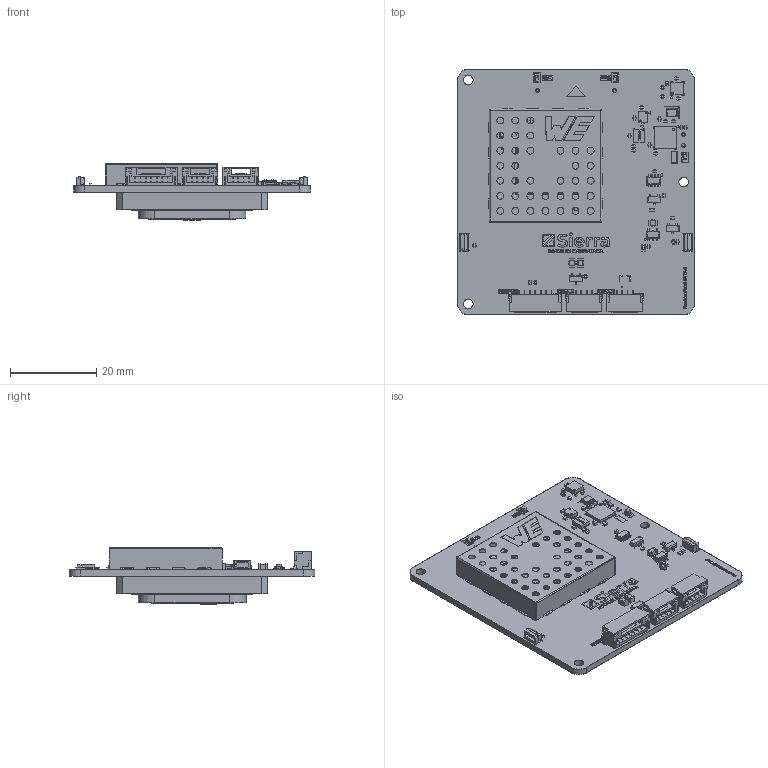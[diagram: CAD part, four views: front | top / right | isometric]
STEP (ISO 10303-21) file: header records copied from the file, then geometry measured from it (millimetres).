
FILE_DESCRIPTION(('KiCad electronic assembly'),'2;1');
FILE_NAME('M9N GPS.step','2025-07-08T21:14:21',('Pcbnew'),('Kicad'), 'Open CASCADE STEP processor 7.8','KiCad to STEP converter','Unknown' );
FILE_SCHEMA(('AUTOMOTIVE_DESIGN { 1 0 10303 214 1 1 1 1 }'));
Length unit declared in the file: millimetre
Products named in the file (44): M9N GPS 1; WS2812B-4020; JST_GH_SM04B-GHS-TB_1x04-1MP_P1.25mm_Horizontal; C_0402_1005Metric; DSK-3R3H703T414-HLL--3DModel-STEP-1; D_SOD-323F; R_0402_1005Metric; SOT-23-3; NEO-F9P-15B; DBV0005A; BODY-SOT; LEAD-SOT; LEAD-DUMMY; C_0805_2012Metric; ICM-42688-P; LED_0603_1608Metric; DPS368; DDF0008A; BODY-SO; LEAD-SO; PIN1-ID; QFN-32-1EP_5x5mm_P0.5mm_EP3.45x3.45mm; LGA-16_3x3mm_P0.5mm; C_0603_1608Metric; WE-SHC_ONE-PIECE; DSG0008B; BODY-SON_AF0; FRAME-DSG0008B_AF0; SOLID; Crystal_SMD_2520-4Pin_2.5x2.0mm; JST_GH_SM07B-GHS-TB_1x07-1MP_P1.25mm_Horizontal; GPSFB356.A; TrueNav-F9P_silkscreen; TrueNav-F9P_soldermask; TrueNav-F9P_PCB
Assembly tree (106 placements, depth 4):
  M9N GPS 1
    WS2812B-4020  x2
    JST_GH_SM04B-GHS-TB_1x04-1MP_P1.25mm_Horizontal  x2
    C_0402_1005Metric  x24
    DSK-3R3H703T414-HLL--3DModel-STEP-1
    D_SOD-323F
    R_0402_1005Metric  x20
    SOT-23-3  x3
    NEO-F9P-15B
    DBV0005A
      BODY-SOT
      LEAD-SOT  x5
      LEAD-DUMMY
    C_0805_2012Metric  x4
    ICM-42688-P
    LED_0603_1608Metric  x3
    DPS368
    DDF0008A
      BODY-SO
      LEAD-SO  x8
      PIN1-ID
    QFN-32-1EP_5x5mm_P0.5mm_EP3.45x3.45mm
    LGA-16_3x3mm_P0.5mm
    C_0603_1608Metric  x2
    WE-SHC_ONE-PIECE
    DSG0008B
      BODY-SON_AF0
      FRAME-DSG0008B_AF0
        SOLID
        SOLID
        SOLID
        SOLID
        SOLID
        SOLID
        SOLID
        SOLID
        SOLID
      PIN1-ID
    Crystal_SMD_2520-4Pin_2.5x2.0mm
    JST_GH_SM07B-GHS-TB_1x07-1MP_P1.25mm_Horizontal
    GPSFB356.A
    TrueNav-F9P_silkscreen
    TrueNav-F9P_soldermask
    TrueNav-F9P_PCB
Bounding box: 55 x 57 x 13.24 mm (x, y, z)
Volume: 12034.5 mm3; surface area: 21142.1 mm2
Topology: 136 solids, 374 shells, 4764 faces, 16099 edges, 11971 vertices
Faces by surface type: plane 3652, cylinder 998, bspline 58, torus 40, sphere 16
Full cylindrical faces by diameter (mm): 0.35 x1, 0.5 x1, 1 x1, 1.6 x36, 2.2 x3
Entity records: 132553 total; most frequent: CARTESIAN_POINT 23387, DIRECTION 18353, ORIENTED_EDGE 17951, EDGE_CURVE 11057, LINE 9273, VECTOR 9273, VERTEX_POINT 8663, AXIS2_PLACEMENT_3D 4540
